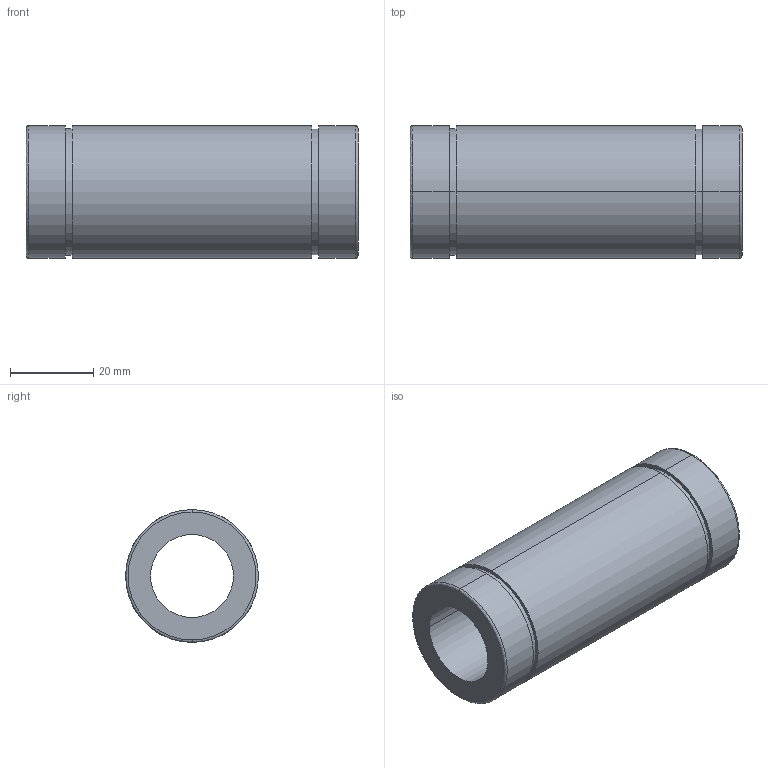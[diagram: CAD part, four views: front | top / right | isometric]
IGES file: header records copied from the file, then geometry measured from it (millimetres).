
Start section: 3D InterOp IGES (Version 21 0 1), Spatial Corp. Copyright (c) 1999-2007.
Global section: file name: NL-20V.igs; native system: Spatial Corp.; preprocessor: 3D InterOp GENERIC/IGES 3.0; author: Noname; organization: Noname; date: 20220311.145651; units: millimetre
Bounding box: 80 x 32 x 32 mm (x, y, z)
Surface area: 14294.6 mm2 (no closed solid volume)
Topology: 0 solids, 0 shells, 22 faces, 88 edges, 88 vertices
Faces by surface type: revolution 16, extrusion 6
